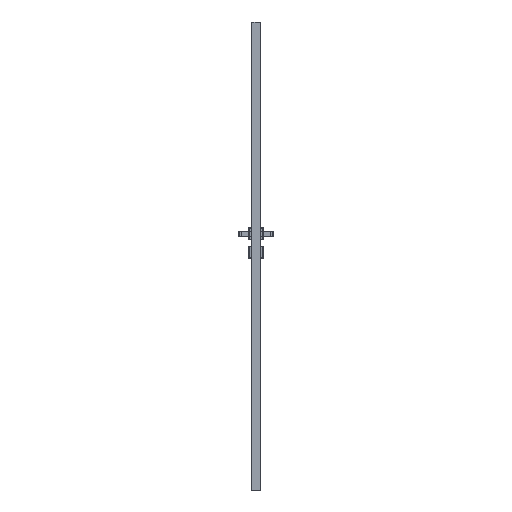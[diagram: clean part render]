
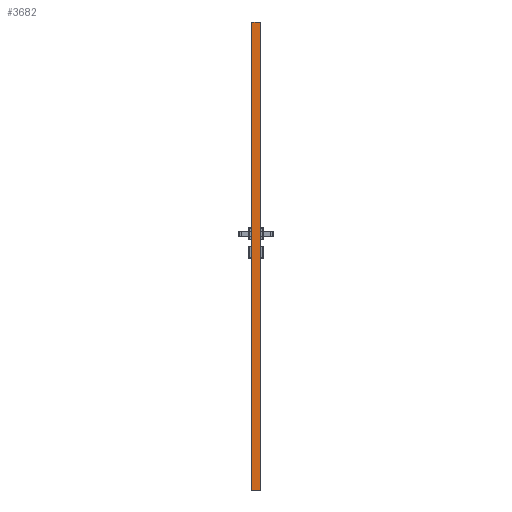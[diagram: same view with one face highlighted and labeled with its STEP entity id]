
A CAD part, left-side view. The second image highlights one B-rep face of the part: STEP entity #3682.
In plain terms, the highlighted planar face has unit normal (-1, 0, 0).
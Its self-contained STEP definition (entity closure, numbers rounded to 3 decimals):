
#1849=FACE_OUTER_BOUND('',#8238,.T.);
#3682=ADVANCED_FACE('',(#1849),#5352,.F.);
#5352=PLANE('',#36389);
#8238=EDGE_LOOP('',(#11942,#11943,#11944,#11945));
#11942=ORIENTED_EDGE('',*,*,#24689,.T.);
#11943=ORIENTED_EDGE('',*,*,#24626,.T.);
#11944=ORIENTED_EDGE('',*,*,#24690,.T.);
#11945=ORIENTED_EDGE('',*,*,#24691,.T.);
#20941=VERTEX_POINT('',#53670);
#20942=VERTEX_POINT('',#53672);
#20966=VERTEX_POINT('',#53796);
#20967=VERTEX_POINT('',#53798);
#24626=EDGE_CURVE('',#20942,#20941,#29359,.T.);
#24689=EDGE_CURVE('',#20966,#20942,#29410,.T.);
#24690=EDGE_CURVE('',#20941,#20967,#29411,.T.);
#24691=EDGE_CURVE('',#20967,#20966,#29412,.T.);
#29359=LINE('',#53671,#32854);
#29410=LINE('',#53795,#32905);
#29411=LINE('',#53797,#32906);
#29412=LINE('',#53799,#32907);
#32854=VECTOR('',#40810,1.);
#32905=VECTOR('',#40959,1.);
#32906=VECTOR('',#40960,1.);
#32907=VECTOR('',#40961,1.);
#36389=AXIS2_PLACEMENT_3D('',#53800,#40962,#40963);
#40810=DIRECTION('',(0.,1.,0.));
#40959=DIRECTION('',(0.,0.,1.));
#40960=DIRECTION('',(0.,0.,-1.));
#40961=DIRECTION('',(0.,-1.,0.));
#40962=DIRECTION('',(1.,0.,0.));
#40963=DIRECTION('',(0.,1.,0.));
#53670=CARTESIAN_POINT('',(-309.,-1.65,2017.01));
#53671=CARTESIAN_POINT('',(-309.,0.,2017.01));
#53672=CARTESIAN_POINT('',(-309.,-38.35,2017.01));
#53795=CARTESIAN_POINT('',(-309.,-38.35,0.));
#53796=CARTESIAN_POINT('',(-309.,-38.35,0.));
#53797=CARTESIAN_POINT('',(-309.,-1.65,0.));
#53798=CARTESIAN_POINT('',(-309.,-1.65,0.));
#53799=CARTESIAN_POINT('',(-309.,-38.35,0.));
#53800=CARTESIAN_POINT('',(-309.,-38.35,0.));
